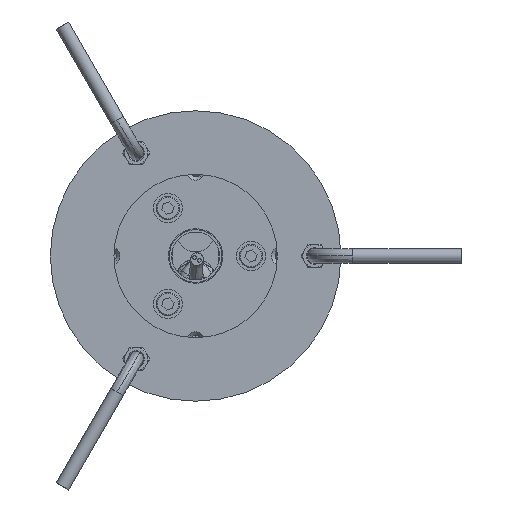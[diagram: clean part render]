
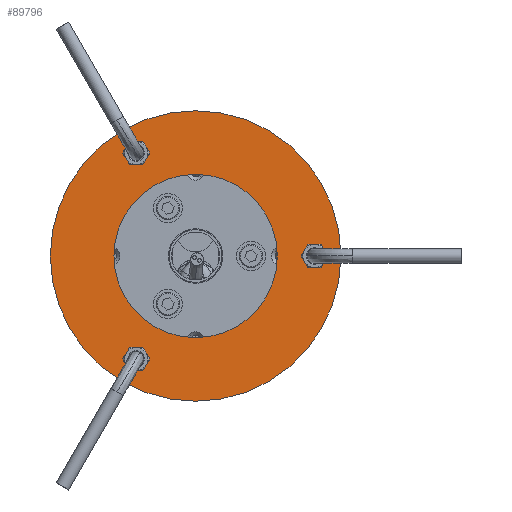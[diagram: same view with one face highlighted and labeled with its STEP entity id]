
A CAD part, front view. The second image highlights one B-rep face of the part: STEP entity #89796.
In plain terms, the highlighted planar face has unit normal (0, -1, 0) as drawn and (0, 0, 1) by its records, which use the part's own axes.
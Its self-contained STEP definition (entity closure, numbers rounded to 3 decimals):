
#89567=CARTESIAN_POINT('',(0.,0.,1.5));
#89568=DIRECTION('',(0.,0.,1.));
#89569=DIRECTION('',(1.,0.,0.));
#89570=AXIS2_PLACEMENT_3D('',#89567,#89568,#89569);
#89572=CARTESIAN_POINT('',(0.,0.,1.5));
#89573=DIRECTION('',(0.,0.,1.));
#89574=DIRECTION('',(-1.,0.,0.));
#89575=AXIS2_PLACEMENT_3D('',#89572,#89573,#89574);
#89577=CARTESIAN_POINT('',(0.,0.,1.5));
#89578=DIRECTION('',(0.,0.,-1.));
#89579=DIRECTION('',(1.,0.,0.));
#89580=AXIS2_PLACEMENT_3D('',#89577,#89578,#89579);
#89582=CARTESIAN_POINT('',(0.,0.,1.5));
#89583=DIRECTION('',(0.,0.,-1.));
#89584=DIRECTION('',(-1.,0.,0.));
#89585=AXIS2_PLACEMENT_3D('',#89582,#89583,#89584);
#89587=CARTESIAN_POINT('',(0.,-65.5,1.5));
#89588=DIRECTION('',(0.,0.,-1.));
#89589=DIRECTION('',(1.,0.,0.));
#89590=AXIS2_PLACEMENT_3D('',#89587,#89588,#89589);
#89592=CARTESIAN_POINT('',(0.,-65.5,1.5));
#89593=DIRECTION('',(0.,0.,-1.));
#89594=DIRECTION('',(-1.,0.,0.));
#89595=AXIS2_PLACEMENT_3D('',#89592,#89593,#89594);
#89597=CARTESIAN_POINT('',(-56.725,32.75,1.5));
#89598=DIRECTION('',(0.,0.,-1.));
#89599=DIRECTION('',(1.,0.,0.));
#89600=AXIS2_PLACEMENT_3D('',#89597,#89598,#89599);
#89602=CARTESIAN_POINT('',(-56.725,32.75,1.5));
#89603=DIRECTION('',(0.,0.,-1.));
#89604=DIRECTION('',(-1.,0.,0.));
#89605=AXIS2_PLACEMENT_3D('',#89602,#89603,#89604);
#89607=CARTESIAN_POINT('',(56.725,32.75,1.5));
#89608=DIRECTION('',(0.,0.,-1.));
#89609=DIRECTION('',(1.,0.,0.));
#89610=AXIS2_PLACEMENT_3D('',#89607,#89608,#89609);
#89612=CARTESIAN_POINT('',(56.725,32.75,1.5));
#89613=DIRECTION('',(0.,0.,-1.));
#89614=DIRECTION('',(-1.,0.,0.));
#89615=AXIS2_PLACEMENT_3D('',#89612,#89613,#89614);
#89645=CARTESIAN_POINT('',(-45.,0.,1.5));
#89646=CARTESIAN_POINT('',(45.,0.,1.5));
#89647=VERTEX_POINT('',#89645);
#89648=VERTEX_POINT('',#89646);
#89657=CARTESIAN_POINT('',(-61.225,32.75,1.5));
#89658=CARTESIAN_POINT('',(-52.225,32.75,1.5));
#89659=VERTEX_POINT('',#89657);
#89660=VERTEX_POINT('',#89658);
#89665=CARTESIAN_POINT('',(4.5,-65.5,1.5));
#89666=CARTESIAN_POINT('',(-4.5,-65.5,1.5));
#89667=VERTEX_POINT('',#89665);
#89668=VERTEX_POINT('',#89666);
#89673=CARTESIAN_POINT('',(61.225,32.75,1.5));
#89674=VERTEX_POINT('',#89673);
#89675=CARTESIAN_POINT('',(52.225,32.75,1.5));
#89676=VERTEX_POINT('',#89675);
#89681=CARTESIAN_POINT('',(80.,0.,1.5));
#89682=CARTESIAN_POINT('',(-80.,0.,1.5));
#89683=VERTEX_POINT('',#89681);
#89684=VERTEX_POINT('',#89682);
#89764=CARTESIAN_POINT('',(0.,0.,1.5));
#89765=DIRECTION('',(0.,0.,1.));
#89766=DIRECTION('',(1.,0.,0.));
#89767=AXIS2_PLACEMENT_3D('',#89764,#89765,#89766);
#89768=PLANE('',#89767);
#89769=ORIENTED_EDGE('',*,*,#89744,.F.);
#89770=ORIENTED_EDGE('',*,*,#89757,.F.);
#89771=EDGE_LOOP('',(#89769,#89770));
#89772=FACE_OUTER_BOUND('',#89771,.F.);
#89774=ORIENTED_EDGE('',*,*,#89773,.F.);
#89776=ORIENTED_EDGE('',*,*,#89775,.F.);
#89777=EDGE_LOOP('',(#89774,#89776));
#89778=FACE_BOUND('',#89777,.F.);
#89780=ORIENTED_EDGE('',*,*,#89779,.F.);
#89782=ORIENTED_EDGE('',*,*,#89781,.F.);
#89783=EDGE_LOOP('',(#89780,#89782));
#89784=FACE_BOUND('',#89783,.F.);
#89785=ORIENTED_EDGE('',*,*,#89694,.F.);
#89787=ORIENTED_EDGE('',*,*,#89786,.F.);
#89788=EDGE_LOOP('',(#89785,#89787));
#89789=FACE_BOUND('',#89788,.F.);
#89791=ORIENTED_EDGE('',*,*,#89790,.F.);
#89793=ORIENTED_EDGE('',*,*,#89792,.F.);
#89794=EDGE_LOOP('',(#89791,#89793));
#89795=FACE_BOUND('',#89794,.F.);
#89796=ADVANCED_FACE('',(#89772,#89778,#89784,#89789,#89795),#89768,.T.);
#89571=CIRCLE('',#89570,80.);
#89576=CIRCLE('',#89575,80.);
#89581=CIRCLE('',#89580,45.);
#89586=CIRCLE('',#89585,45.);
#89591=CIRCLE('',#89590,4.5);
#89596=CIRCLE('',#89595,4.5);
#89601=CIRCLE('',#89600,4.5);
#89606=CIRCLE('',#89605,4.5);
#89611=CIRCLE('',#89610,4.5);
#89616=CIRCLE('',#89615,4.5);
#89694=EDGE_CURVE('',#89660,#89659,#89601,.T.);
#89744=EDGE_CURVE('',#89683,#89684,#89571,.T.);
#89757=EDGE_CURVE('',#89684,#89683,#89576,.T.);
#89773=EDGE_CURVE('',#89648,#89647,#89581,.T.);
#89775=EDGE_CURVE('',#89647,#89648,#89586,.T.);
#89779=EDGE_CURVE('',#89667,#89668,#89591,.T.);
#89781=EDGE_CURVE('',#89668,#89667,#89596,.T.);
#89786=EDGE_CURVE('',#89659,#89660,#89606,.T.);
#89790=EDGE_CURVE('',#89674,#89676,#89611,.T.);
#89792=EDGE_CURVE('',#89676,#89674,#89616,.T.);
